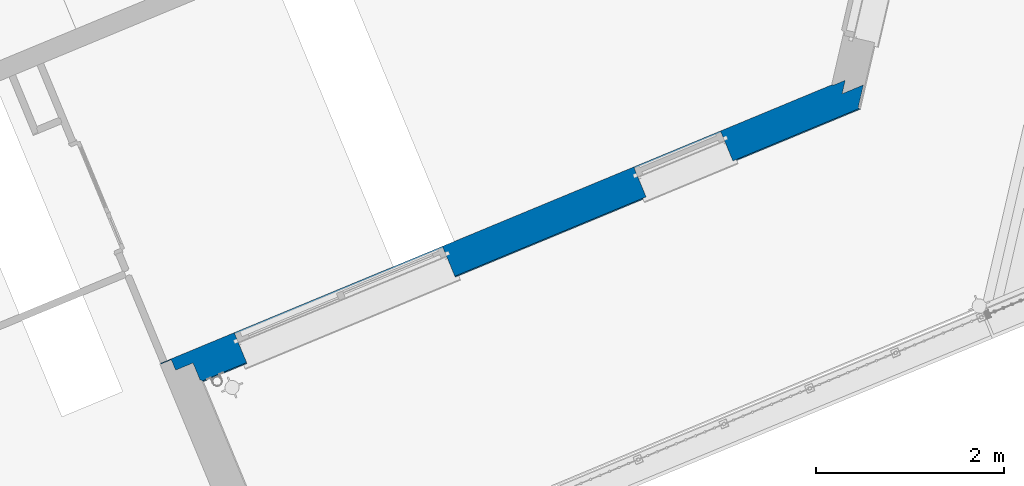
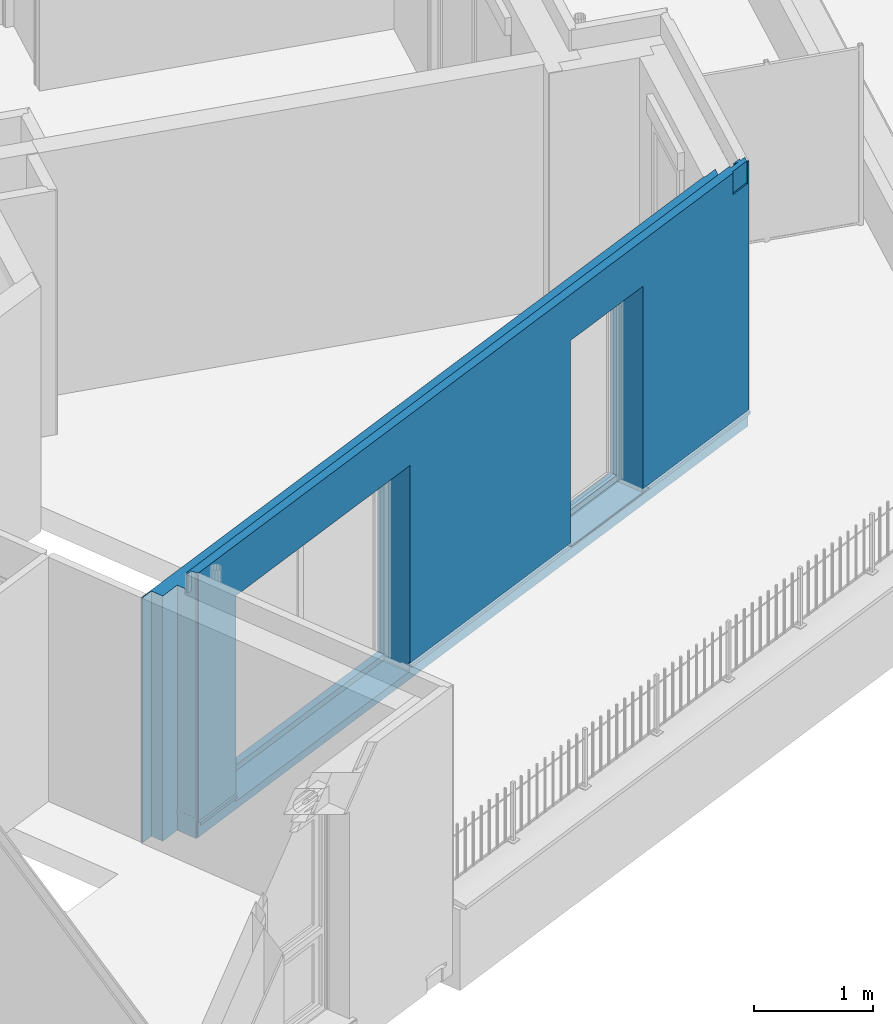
# One storey, part 12 of 119: 1 wall, 2 openings.
"""IFC2X3 building model written with IfcOpenShell, lengths in metres."""

from ifc_helpers import new_model, entity, si_unit, converted_unit, derived_unit, money_unit, direction, frame, origin_with_axes, place, context, subcontext, project, spatial, faceted_brep, material, material_list, type_object, element, save


model = new_model("IFC2X3")

# Units and contexts
model_context = context("Model", 3, precision=1e-05, world=origin_with_axes(), true_north=direction((0.0, 1.0)))
body_context = subcontext(model_context, "Body", "Model", "MODEL_VIEW")
ifc_project = project(units=[si_unit("LENGTHUNIT", "METRE"), si_unit("AREAUNIT", "SQUARE_METRE"), si_unit("VOLUMEUNIT", "CUBIC_METRE"), converted_unit("PLANEANGLEUNIT", "DEGREE", entity("IfcPlaneAngleMeasure", 0.0174532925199), si_unit("PLANEANGLEUNIT", "RADIAN"), dimensions=[0, 0, 0, 0, 0, 0, 0]), si_unit("SOLIDANGLEUNIT", "STERADIAN"), money_unit("EUR"), converted_unit("TIMEUNIT", "Year", entity("IfcTimeMeasure", 31556926.0), si_unit("TIMEUNIT", "SECOND"), dimensions=[0, 0, 1, 0, 0, 0, 0]), si_unit("MASSUNIT", "GRAM", prefix="KILO"), si_unit("THERMODYNAMICTEMPERATUREUNIT", "DEGREE_CELSIUS"), si_unit("LUMINOUSINTENSITYUNIT", "LUMEN"), si_unit("ENERGYUNIT", "JOULE", prefix="MEGA"), derived_unit("THERMALCONDUCTANCEUNIT", [(si_unit("POWERUNIT", "WATT"), 1), (si_unit("LENGTHUNIT", "METRE"), -1), (si_unit("THERMODYNAMICTEMPERATUREUNIT", "KELVIN"), -1)]), derived_unit("SPECIFICHEATCAPACITYUNIT", [(si_unit("ENERGYUNIT", "JOULE"), 1), (si_unit("MASSUNIT", "GRAM", prefix="KILO"), -1), (si_unit("THERMODYNAMICTEMPERATUREUNIT", "KELVIN"), -1)]), derived_unit("MASSDENSITYUNIT", [(si_unit("MASSUNIT", "GRAM", prefix="KILO"), 1), (si_unit("VOLUMEUNIT", "CUBIC_METRE"), -1)])], contexts=[model_context])

# Site, building, storey
site_placement = place(None, origin_with_axes())
site = spatial("IfcSite", under=ifc_project, at=site_placement, Name="Site", CompositionType="ELEMENT")
building_placement = place(site_placement, origin_with_axes())
building = spatial("IfcBuilding", under=site, at=building_placement, Name="Bâtiment", CompositionType="ELEMENT")
storey_placement = place(building_placement, origin_with_axes())
storey = spatial("IfcBuildingStorey", under=building, at=storey_placement, Name="Rez-de-chaussée", CompositionType="ELEMENT", Elevation=0.0)

# Wall, openings
ifc_material_1 = material(Name="Finition int - Plaque de plâtre")
ifc_material_2 = material(Name="Isolation - Polystyrène extrudé")
ifc_material_3 = material(Name="Bloc ELITHERM")
ifc_material_4 = material(Name="Isolation - Polystyrène expansé")
ifc_material_5 = material(Name="Mortier")
ifc_material_6 = material(Name="Béton cellulaire")
ifc_material_7 = material(Name="Etanchéité - Bitume")
ifc_material_8 = material(Name="Finition ext - Crépis")
ifc_material_9 = material(Name="Métal - Aluminium")
ifc_material_list = material_list([ifc_material_1, ifc_material_2, ifc_material_3, ifc_material_4, ifc_material_5, ifc_material_6, ifc_material_7, ifc_material_8, ifc_material_9])
wall_type = type_object("IfcWallType", Name="Mur ALKERN + planelle 21 TERRASSE RDC 356 x 2720", PredefinedType="USERDEFINED")
wall_placement = place(storey_placement, frame((-14.6068307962, -23.0338728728, 0.0), z_axis=(0.0, 0.0, 1.0), x_axis=(0.923701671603, 0.383112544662, 0.0)))
wall = element("IfcWall", 1, at=wall_placement, inside=storey, type_object=wall_type, material=ifc_material_list, Name="Mue bloc ALKERN isolé", ObjectType="SOLIDWALL", context=body_context, shape_type="Brep", body=[
    faceted_brep([(7.39179732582, 0.350000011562, 2.50955001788), (-0.350000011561, 0.350000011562, 2.50955001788), (-0.350000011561, 0.350000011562, 0.207793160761), (-0.350000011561, 0.350000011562, 0.176532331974), (-0.350000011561, 0.350000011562, 0.169414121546), (-0.350000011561, 0.350000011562, 0.160000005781), (-0.350000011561, 0.350000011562, 0.133633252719), (-0.350000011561, 0.350000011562, 0.0), (7.39179732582, 0.350000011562, 0.0), (7.39179732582, 0.350000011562, 0.133633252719), (7.39179732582, 0.350000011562, 0.160000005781), (7.39179732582, 0.350000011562, 0.169414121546), (7.39179732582, 0.350000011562, 0.176532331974), (7.39179732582, 0.350000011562, 0.207793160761), (0.499335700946, 0.350000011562, 2.2), (0.499335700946, 0.350000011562, 2.38), (2.89933570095, 0.350000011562, 2.38), (2.89933570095, 0.350000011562, 2.2), (2.89933570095, 0.350000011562, 0.15), (0.499335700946, 0.350000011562, 0.15), (5.10505784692, 0.350000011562, 2.25), (5.10505784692, 0.350000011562, 2.43), (6.10505784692, 0.350000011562, 2.43), (6.10505784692, 0.350000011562, 2.25), (6.10505784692, 0.350000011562, 0.2), (5.10505784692, 0.350000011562, 0.2), (7.39893608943, 0.359999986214, 2.50955001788), (-0.350000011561, 0.359999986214, 2.50955001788), (-0.350000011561, 0.359999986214, 0.207793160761), (-0.350000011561, 0.359999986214, 0.176532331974), (-0.350000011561, 0.359999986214, 0.169414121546), (-0.350000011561, 0.359999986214, 0.160000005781), (-0.350000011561, 0.359999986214, 0.133633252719), (-0.350000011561, 0.359999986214, 0.0), (7.39893608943, 0.359999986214, 0.0), (7.39893608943, 0.359999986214, 0.133633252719), (7.39893608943, 0.359999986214, 0.160000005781), (7.39893608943, 0.359999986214, 0.169414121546), (7.39893608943, 0.359999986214, 0.176532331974), (7.39893608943, 0.359999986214, 0.207793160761), (0.499335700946, 0.359999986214, 2.2), (0.499335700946, 0.359999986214, 2.38), (2.89933570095, 0.359999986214, 2.38), (2.89933570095, 0.359999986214, 2.2), (2.89933570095, 0.359999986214, 0.15), (0.499335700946, 0.359999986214, 0.15), (5.10505784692, 0.359999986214, 2.25), (5.10505784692, 0.359999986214, 2.43), (6.10505784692, 0.359999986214, 2.43), (6.10505784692, 0.359999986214, 2.25), (6.10505784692, 0.359999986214, 0.2), (5.10505784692, 0.359999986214, 0.2)], [[[0, 1, 2, 3, 4, 5, 6, 7, 8, 9, 10, 11, 12, 13], [14, 15, 16, 17, 18, 19], [20, 21, 22, 23, 24, 25]], [[1, 0, 26, 27]], [[2, 1, 27, 28]], [[2, 28, 29, 3]], [[4, 3, 29, 30]], [[5, 4, 30, 31]], [[32, 6, 5, 31]], [[6, 32, 33, 7]], [[33, 34, 8, 7]], [[9, 8, 34, 35]], [[9, 35, 36, 10]], [[10, 36, 37, 11]], [[37, 38, 12, 11]], [[38, 39, 13, 12]], [[13, 39, 26, 0]], [[40, 41, 15, 14]], [[41, 42, 16, 15]], [[42, 43, 17, 16]], [[44, 18, 17, 43]], [[45, 19, 18, 44]], [[19, 45, 40, 14]], [[21, 20, 46, 47]], [[22, 21, 47, 48]], [[23, 22, 48, 49]], [[23, 49, 50, 24]], [[24, 50, 51, 25]], [[46, 20, 25, 51]], [[39, 38, 37, 36, 35, 34, 33, 32, 31, 30, 29, 28, 27, 26], [41, 40, 45, 44, 43, 42], [47, 46, 51, 50, 49, 48]]]),
    faceted_brep([(6.10505784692, 0.248560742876, 0.2), (6.10505784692, 0.22999997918, 0.2), (6.10505784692, 0.22999997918, 2.25), (6.10505784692, 0.248560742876, 2.25), (6.10505784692, 0.22999997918, 0.14), (6.10505784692, 0.289560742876, 0.2), (6.10505784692, 0.289560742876, 0.14), (-0.229999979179, 0.22999997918, 0.207793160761), (-0.229999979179, 0.22999997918, 0.176532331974), (-0.229999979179, 0.22999997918, 0.169414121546), (-0.229999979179, 0.22999997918, 0.160000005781), (-0.229999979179, 0.22999997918, 0.133633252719), (-0.229999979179, 0.22999997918, 0.0), (7.45357196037, 0.22999997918, 0.0), (7.45357196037, 0.22999997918, 0.133633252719), (7.45357196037, 0.22999997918, 0.160000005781), (7.45357196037, 0.22999997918, 0.169414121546), (7.45357196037, 0.22999997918, 0.176532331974), (7.45357196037, 0.22999997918, 0.207793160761), (7.45357196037, 0.22999997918, 2.50955001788), (-0.229999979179, 0.22999997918, 2.50955001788), (2.89933570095, 0.22999997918, 2.38), (2.89933570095, 0.22999997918, 2.2), (2.89933570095, 0.22999997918, 0.15), (2.89933570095, 0.22999997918, 0.09), (0.499335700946, 0.22999997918, 0.09), (0.499335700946, 0.22999997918, 0.15), (0.499335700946, 0.22999997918, 2.2), (0.499335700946, 0.22999997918, 2.38), (5.10505784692, 0.22999997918, 0.14), (5.10505784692, 0.22999997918, 0.2), (5.10505784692, 0.22999997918, 2.25), (5.10505784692, 0.22999997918, 2.43), (6.10505784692, 0.22999997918, 2.43), (6.10505784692, 0.350000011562, 2.43), (6.10505784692, 0.350000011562, 2.25), (6.10505784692, 0.350000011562, 0.2), (5.10505784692, 0.289560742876, 0.2), (5.10505784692, 0.289560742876, 0.14), (-0.229999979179, 0.350000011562, 0.207793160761), (-0.229999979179, 0.350000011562, 0.176532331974), (-0.229999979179, 0.350000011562, 0.169414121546), (-0.229999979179, 0.350000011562, 0.160000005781), (-0.229999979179, 0.350000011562, 0.133633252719), (-0.229999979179, 0.350000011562, 0.0), (7.53923736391, 0.350000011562, 0.0), (7.53923736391, 0.350000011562, 0.133633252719), (7.53923736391, 0.350000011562, 0.160000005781), (7.53923736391, 0.350000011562, 0.169414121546), (7.53923736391, 0.350000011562, 0.176532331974), (7.53923736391, 0.350000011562, 0.207793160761), (7.53923736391, 0.350000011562, 2.50955001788), (-0.229999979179, 0.350000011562, 2.50955001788), (2.89933570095, 0.350000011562, 2.38), (2.89933570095, 0.350000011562, 2.2), (2.89933570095, 0.248560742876, 2.2), (2.89933570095, 0.248560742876, 0.15), (2.89933570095, 0.289560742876, 0.15), (2.89933570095, 0.289560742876, 0.09), (0.499335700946, 0.289560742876, 0.09), (0.499335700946, 0.289560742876, 0.15), (0.499335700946, 0.248560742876, 0.15), (0.499335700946, 0.248560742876, 2.2), (0.499335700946, 0.350000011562, 2.2), (0.499335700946, 0.350000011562, 2.38), (5.10505784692, 0.248560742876, 0.2), (5.10505784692, 0.248560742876, 2.25), (5.10505784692, 0.350000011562, 2.25), (5.10505784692, 0.350000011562, 2.43), (2.89933570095, 0.350000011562, 0.15), (0.499335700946, 0.350000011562, 0.15), (5.10505784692, 0.350000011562, 0.2)], [[[0, 1, 2, 3]], [[4, 1, 0, 5, 6]], [[7, 8, 9, 10, 11, 12, 13, 14, 15, 16, 17, 18, 19, 20], [21, 22, 23, 24, 25, 26, 27, 28], [29, 30, 31, 32, 33, 2, 1, 4]], [[34, 35, 3, 2, 33]], [[5, 0, 3, 35, 36]], [[5, 37, 38, 6]], [[29, 4, 6, 38]], [[39, 40, 8, 7]], [[8, 40, 41, 9]], [[9, 41, 42, 10]], [[11, 10, 42, 43]], [[43, 44, 12, 11]], [[44, 45, 13, 12]], [[14, 13, 45, 46]], [[14, 46, 47, 15]], [[15, 47, 48, 16]], [[48, 49, 17, 16]], [[49, 50, 18, 17]], [[18, 50, 51, 19]], [[20, 19, 51, 52]], [[20, 52, 39, 7]], [[22, 21, 53, 54, 55]], [[56, 23, 22, 55]], [[57, 58, 24, 23, 56]], [[25, 24, 58, 59]], [[59, 60, 61, 26, 25]], [[26, 61, 62, 27]], [[28, 27, 62, 63, 64]], [[28, 64, 53, 21]], [[65, 30, 29, 38, 37]], [[30, 65, 66, 31]], [[66, 67, 68, 32, 31]], [[32, 68, 34, 33]], [[48, 47, 46, 45, 44, 43, 42, 41, 40, 39, 52, 51, 50, 49], [69, 54, 53, 64, 63, 70], [36, 35, 34, 68, 67, 71]], [[37, 5, 36, 71]], [[54, 69, 57, 56, 55]], [[57, 60, 59, 58]], [[63, 62, 61, 60, 70]], [[65, 37, 71, 67, 66]], [[60, 57, 69, 70]]]),
    faceted_brep([(6.10505784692, 0.0310453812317, 0.1697277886), (6.10505784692, 0.0299999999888, 0.16941412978), (7.55652968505, 0.0299999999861, 0.169414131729), (7.55599151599, 0.0310453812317, 0.169727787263), (6.10505784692, 0.0300000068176, 0.160000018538), (6.10505784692, 0.0310453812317, 0.2), (6.10505784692, 0.229999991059, 0.2), (6.10505784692, 0.229999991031, 0.14), (6.10505784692, 0.03, 0.14), (7.55652968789, 0.0300000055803, 0.160000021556), (7.69930531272, 0.229999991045, 0.169414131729), (7.69802086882, 0.229999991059, 0.169727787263), (7.55599151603, 0.0310453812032, 0.176532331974), (7.55599151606, 0.0310453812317, 0.207793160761), (6.10505784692, 0.0310453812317, 0.20779315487), (6.10505784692, 0.03, 0.207793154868), (6.10505784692, 0.03, 2.25), (6.10505784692, 0.218560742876, 2.25), (6.10505784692, 0.229999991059, 2.25), (7.6993053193, 0.229999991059, 2.50955), (7.69930527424, 0.229999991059, 0.207793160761), (7.69802086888, 0.229999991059, 0.207793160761), (7.69802086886, 0.229999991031, 0.176532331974), (7.69930530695, 0.229999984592, 0.160000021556), (7.69930529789, 0.229999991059, 0.133633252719), (7.69930529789, 0.229999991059, 0.0), (-0.0299999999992, 0.229999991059, 0.0), (-0.0300000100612, 0.229999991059, 0.133633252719), (-0.0300000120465, 0.229999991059, 0.160000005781), (-0.0299999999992, 0.229999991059, 0.169414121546), (-0.0310453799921, 0.229999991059, 0.169727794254), (-0.0310453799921, 0.229999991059, 0.176532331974), (-0.0310453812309, 0.229999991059, 0.207793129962), (-0.0299999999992, 0.229999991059, 0.207793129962), (-0.0299999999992, 0.229999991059, 2.50955001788), (0.499335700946, 0.229999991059, 0.09), (2.89933570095, 0.229999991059, 0.09), (2.89933570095, 0.229999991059, 0.15), (2.89933570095, 0.229999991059, 2.2), (2.89933570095, 0.229999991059, 2.38), (0.499335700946, 0.229999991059, 2.38), (0.499335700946, 0.229999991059, 2.2), (0.499335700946, 0.229999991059, 0.15), (6.10505784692, 0.229999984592, 2.43), (5.10505784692, 0.229999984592, 2.43), (5.10505784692, 0.229999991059, 2.25), (5.10505784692, 0.229999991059, 0.2), (5.10505784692, 0.229999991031, 0.14), (5.10505784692, 0.03, 0.14), (5.10505784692, 0.03000000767, 0.160000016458), (2.89933570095, 0.0300000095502, 0.160000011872), (2.89933570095, 0.03, 0.15), (2.89933570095, 0.0300000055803, 0.09), (0.499335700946, 0.0300000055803, 0.09), (0.499335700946, 0.03, 0.15), (0.499335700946, 0.0300000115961, 0.160000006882), (-0.0300000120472, 0.0300000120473, 0.160000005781), (-0.0300000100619, 0.03, 0.133633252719), (-0.0299999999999, 0.03, 0.0), (7.55652967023, 0.03, 0.0), (7.55652967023, 0.03, 0.133633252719), (7.55652964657, 0.03, 0.207793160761), (7.55727592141, 0.0310453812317, 0.207793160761), (-0.0299999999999, 0.03, 2.50955001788), (-0.0299999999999, 0.03, 0.207793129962), (0.499335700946, 0.03, 0.207793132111), (0.499335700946, 0.03, 2.2), (2.89933570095, 0.03, 2.2), (2.89933570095, 0.03, 0.207793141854), (5.10505784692, 0.03, 0.207793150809), (5.10505784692, 0.03, 2.25), (7.55652969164, 0.03, 2.50955), (5.10505784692, 0.218560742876, 2.25), (6.10505784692, 0.218560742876, 2.43), (7.605073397, 0.0979999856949, 2.50955), (-0.0299999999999, 0.03, 0.169414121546), (-0.0310453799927, 0.0310453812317, 0.169727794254), (-0.0310453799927, 0.0310453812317, 0.176532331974), (-0.0310453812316, 0.0310453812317, 0.207793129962), (-0.0299999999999, 0.0310453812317, 0.207793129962), (-0.0299999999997, 0.0979999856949, 2.50955001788), (2.89933570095, 0.0299999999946, 0.169414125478), (2.89933570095, 0.0310453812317, 0.169727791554), (2.89933570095, 0.0310453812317, 0.207793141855), (2.89933570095, 0.218560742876, 2.2), (2.89933570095, 0.218560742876, 2.38), (0.499335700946, 0.218560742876, 2.38), (0.499335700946, 0.218560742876, 2.2), (0.499335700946, 0.0310453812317, 0.207793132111), (0.499335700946, 0.0310453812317, 0.169727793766), (0.499335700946, 0.029999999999, 0.169414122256), (5.10505784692, 0.218560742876, 2.43), (5.10505784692, 0.0310453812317, 0.2), (5.10505784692, 0.0310453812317, 0.20779315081), (5.10505784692, 0.0310453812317, 0.169727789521), (5.10505784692, 0.0299999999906, 0.169414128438)], [[[0, 1, 2, 3]], [[4, 1, 0, 5, 6, 7, 8]], [[1, 4, 9, 2]], [[10, 11, 3, 2]], [[5, 0, 3, 12, 13, 14]], [[6, 5, 14, 15, 16, 17, 18]], [[19, 20, 21, 22, 11, 10, 23, 24, 25, 26, 27, 28, 29, 30, 31, 32, 33, 34], [35, 36, 37, 38, 39, 40, 41, 42], [7, 6, 18, 43, 44, 45, 46, 47]], [[48, 8, 7, 47]], [[48, 49, 50, 51, 52, 53, 54, 55, 56, 57, 58, 59, 60, 9, 4, 8]], [[2, 9, 23, 10]], [[3, 11, 22, 12]], [[13, 12, 22, 21]], [[61, 15, 14, 13, 62]], [[63, 64, 65, 66, 67, 68, 69, 70, 16, 15, 61, 71]], [[17, 16, 70, 72]], [[17, 73, 43, 18]], [[20, 19, 74, 71, 61, 62]], [[13, 21, 20, 62]], [[9, 60, 24, 23]], [[24, 60, 59, 25]], [[58, 26, 25, 59]], [[27, 26, 58, 57]], [[57, 56, 28, 27]], [[75, 29, 28, 56]], [[29, 75, 76, 30]], [[77, 31, 30, 76]], [[32, 31, 77, 78]], [[79, 33, 32, 78]], [[79, 64, 63, 80, 34, 33]], [[34, 80, 74, 19]], [[35, 53, 52, 36]], [[36, 52, 51, 37]], [[51, 50, 81, 82, 83, 68, 67, 84, 38, 37]], [[38, 84, 85, 39]], [[40, 39, 85, 86]], [[87, 41, 40, 86]], [[42, 41, 87, 66, 65, 88, 89, 90, 55, 54]], [[35, 42, 54, 53]], [[43, 73, 91, 44]], [[45, 44, 91, 72]], [[92, 46, 45, 72, 70, 69, 93]], [[94, 95, 49, 48, 47, 46, 92]], [[49, 95, 81, 50]], [[90, 75, 56, 55]], [[65, 64, 79, 88]], [[87, 84, 67, 66]], [[68, 83, 93, 69]], [[80, 63, 71, 74]], [[72, 91, 73, 17]], [[89, 76, 75, 90]], [[78, 77, 76, 89, 88, 79]], [[95, 94, 82, 81]], [[94, 92, 93, 83, 82]], [[84, 87, 86, 85]]]),
    faceted_brep([(-0.0300078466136, 0.0980000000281, 2.51999999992), (-0.0300078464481, 0.0980000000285, 2.72), (7.40848672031, 0.0980000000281, 2.72), (7.40848672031, 0.0980000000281, 2.51999999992), (-0.0780000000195, 0.097896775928, 2.72), (-0.0780000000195, 0.097896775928, 2.51999999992), (-0.0780000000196, 0.0780000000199, 2.72), (7.39420915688, 0.0780000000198, 2.72), (7.39420915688, 0.0780000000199, 2.51999999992), (-0.0780000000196, 0.0780000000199, 2.51999999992)], [[[0, 1, 2, 3]], [[4, 1, 0, 5]], [[1, 4, 6, 7, 2]], [[8, 3, 2, 7]], [[5, 0, 3, 8, 9]], [[4, 5, 9, 6]], [[9, 8, 7, 6]]]),
    faceted_brep([(7.54609739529, 0.0980000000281, 2.72), (7.46127533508, 0.0980000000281, 2.72), (7.48929131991, 0.0780000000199, 2.72), (7.53181983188, 0.0780000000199, 2.72), (7.54609739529, 0.0980000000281, 2.51999999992), (7.46127533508, 0.0980000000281, 2.51999999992), (7.48929131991, 0.0780000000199, 2.51999999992), (7.53181983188, 0.0780000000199, 2.51999999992)], [[[0, 1, 2, 3]], [[4, 5, 1, 0]], [[5, 6, 2, 1]], [[3, 2, 6, 7]], [[7, 4, 0, 3]], [[7, 6, 5, 4]]]),
    faceted_brep([(7.55652969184, 0.03, 2.51999999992), (7.60507340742, 0.098, 2.51999999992), (-0.0299999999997, 0.098, 2.52), (-0.0299999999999, 0.03, 2.52), (7.60507340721, 0.098, 2.50955), (7.55652969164, 0.03, 2.50955), (-0.0299999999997, 0.098, 2.50955), (-0.0299999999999, 0.03, 2.50955)], [[[0, 1, 2, 3]], [[4, 1, 0, 5]], [[1, 4, 6, 2]], [[7, 3, 2, 6]], [[5, 0, 3, 7]], [[4, 5, 7, 6]]]),
    faceted_brep([(7.55652969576, 0.03, 2.72), (7.59079584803, 0.0780000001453, 2.72), (-0.0299999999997, 0.0780000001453, 2.72), (-0.0299999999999, 0.03, 2.72), (7.59079584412, 0.0780000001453, 2.51999999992), (7.55652969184, 0.03, 2.51999999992), (-0.0299999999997, 0.0780000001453, 2.51999999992), (-0.0299999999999, 0.03, 2.51999999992)], [[[0, 1, 2, 3]], [[4, 1, 0, 5]], [[1, 4, 6, 2]], [[7, 3, 2, 6]], [[5, 0, 3, 7]], [[4, 5, 7, 6]]]),
    faceted_brep([(6.10505784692, 0.0300000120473, 0.160000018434), (6.10505784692, 0.02, 0.160000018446), (7.56167759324, 0.02, 0.160000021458), (7.56881638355, 0.0300000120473, 0.160000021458), (6.10505784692, 0.02, 0.14), (6.10505784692, 0.0299999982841, 0.14), (5.10505784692, 0.02, 0.14), (5.10505784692, 0.02, 0.160000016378), (2.89933570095, 0.02, 0.160000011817), (2.89933570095, 0.02, 0.15), (2.89933570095, 0.02, 0.09), (0.499335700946, 0.02, 0.09), (0.499335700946, 0.02, 0.15), (0.499335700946, 0.02, 0.160000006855), (-0.0199999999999, 0.02, 0.160000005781), (-0.0199999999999, 0.02, 0.133633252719), (-0.0199999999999, 0.02, 0.01), (7.56167760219, 0.0200000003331, 0.01), (7.56167759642, 0.0200000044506, 0.133633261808), (7.56881638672, 0.0300000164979, 0.133633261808), (7.56881639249, 0.0300000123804, 0.01), (-0.0199999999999, 0.0299999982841, 0.01), (-0.0199999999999, 0.0300000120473, 0.133633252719), (-0.0199999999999, 0.0300000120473, 0.160000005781), (0.499335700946, 0.0300000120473, 0.160000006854), (0.499335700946, 0.0299999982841, 0.15), (0.499335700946, 0.0299999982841, 0.09), (2.89933570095, 0.0299999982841, 0.09), (2.89933570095, 0.0299999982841, 0.15), (2.89933570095, 0.0300000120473, 0.160000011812), (5.10505784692, 0.0300000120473, 0.160000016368), (5.10505784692, 0.0299999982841, 0.14)], [[[0, 1, 2, 3]], [[4, 1, 0, 5]], [[6, 7, 8, 9, 10, 11, 12, 13, 14, 15, 16, 17, 18, 2, 1, 4]], [[2, 18, 19, 3]], [[5, 0, 3, 19, 20, 21, 22, 23, 24, 25, 26, 27, 28, 29, 30, 31]], [[6, 4, 5, 31]], [[30, 7, 6, 31]], [[7, 30, 29, 8]], [[9, 8, 29, 28]], [[9, 28, 27, 10]], [[10, 27, 26, 11]], [[12, 11, 26, 25]], [[25, 24, 13, 12]], [[23, 14, 13, 24]], [[23, 22, 15, 14]], [[22, 21, 16, 15]], [[21, 20, 17, 16]], [[18, 17, 20, 19]]]),
    faceted_brep([(6.10505784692, 0.0150000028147, 0.2), (6.10505784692, 0.0150000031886, 0.176532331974), (7.56425150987, 0.0150000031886, 0.176532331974), (7.56425150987, 0.0150000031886, 2.72), (7.54582151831, 0.0150000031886, 2.72), (7.54582149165, 0.0149999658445, 2.51999999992), (7.54582149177, 0.014999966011, 2.50955), (7.54582149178, 0.0149999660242, 2.50872065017), (7.54582149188, 0.0149999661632, 2.5), (7.52739149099, 0.0149999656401, 2.5), (7.50313640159, 0.0149999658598, 2.5), (7.34923480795, 0.0149999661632, 2.5), (7.34923480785, 0.0149999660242, 2.50872065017), (7.34923480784, 0.014999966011, 2.50955), (7.34923480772, 0.0149999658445, 2.51999999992), (7.34923483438, 0.0150000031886, 2.72), (-0.0150000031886, 0.0150000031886, 2.72), (-0.0150000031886, 0.0149999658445, 2.51999999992), (-0.0150000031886, 0.014999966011, 2.50955), (-0.0150000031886, 0.0150000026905, 0.207793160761), (-0.0150000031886, 0.0150000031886, 0.176532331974), (0.499335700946, 0.0150000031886, 0.176532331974), (0.499335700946, 0.015000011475, 2.2), (2.89933570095, 0.015000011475, 2.2), (2.89933570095, 0.0150000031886, 0.176532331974), (5.10505784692, 0.0150000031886, 0.176532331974), (5.10505784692, 0.0150000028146, 0.2), (5.10505784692, 0.0149999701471, 2.25), (6.10505784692, 0.0149999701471, 2.25), (6.10505784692, 0.030000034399, 0.2), (6.10505784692, 0.0300000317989, 0.176532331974), (7.57495970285, 0.0300000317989, 0.176532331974), (7.57495967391, 0.0299999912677, 2.72), (7.55652968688, 0.0299999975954, 2.72), (7.55652968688, 0.0299999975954, 2.51999999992), (7.55652968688, 0.0299999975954, 2.50955), (7.55652968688, 0.0299999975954, 2.50872065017), (7.55652968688, 0.0299999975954, 2.5), (7.53809968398, 0.0299999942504, 2.5), (7.51384459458, 0.02999999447, 2.5), (7.35994300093, 0.0299999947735, 2.5), (7.35994300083, 0.0299999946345, 2.50872065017), (7.35994300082, 0.0299999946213, 2.50955), (7.35994300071, 0.0299999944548, 2.51999999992), (7.35994299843, 0.0299999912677, 2.72), (-0.0150000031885, 0.0299999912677, 2.72), (-0.0150000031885, 0.0299999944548, 2.51999999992), (-0.0150000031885, 0.0299999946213, 2.50955), (-0.0150000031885, 0.0300000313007, 0.207793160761), (-0.0150000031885, 0.0300000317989, 0.176532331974), (0.499335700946, 0.0300000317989, 0.176532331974), (0.499335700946, 0.0300000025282, 2.2), (2.89933570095, 0.0300000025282, 2.2), (2.89933570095, 0.0300000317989, 0.176532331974), (5.10505784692, 0.0300000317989, 0.176532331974), (5.10505784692, 0.030000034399, 0.2), (5.10505784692, 0.0300000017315, 2.25), (6.10505784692, 0.0300000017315, 2.25)], [[[0, 1, 2, 3, 4, 5, 6, 7, 8, 9, 10, 11, 12, 13, 14, 15, 16, 17, 18, 19, 20, 21, 22, 23, 24, 25, 26, 27, 28]], [[1, 0, 29, 30]], [[1, 30, 31, 2]], [[32, 3, 2, 31]], [[3, 32, 33, 4]], [[34, 5, 4, 33]], [[35, 6, 5, 34]], [[36, 7, 6, 35]], [[37, 8, 7, 36]], [[8, 37, 38, 9]], [[9, 38, 39, 10]], [[40, 11, 10, 39]], [[11, 40, 41, 12]], [[12, 41, 42, 13]], [[13, 42, 43, 14]], [[15, 14, 43, 44]], [[45, 16, 15, 44]], [[45, 46, 17, 16]], [[47, 18, 17, 46]], [[48, 19, 18, 47]], [[49, 20, 19, 48]], [[20, 49, 50, 21]], [[50, 51, 22, 21]], [[51, 52, 23, 22]], [[52, 53, 24, 23]], [[54, 25, 24, 53]], [[55, 26, 25, 54]], [[26, 55, 56, 27]], [[27, 56, 57, 28]], [[29, 0, 28, 57]], [[30, 29, 57, 56, 55, 54, 53, 52, 51, 50, 49, 48, 47, 46, 45, 44, 43, 42, 41, 40, 39, 38, 37, 36, 35, 34, 33, 32, 31]]]),
    faceted_brep([(0.499335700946, 0.0035607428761, 0.162931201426), (-0.00356074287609, 0.0035607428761, 0.162931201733), (-0.00356074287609, 0.0035607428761, 0.160000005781), (-0.00356074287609, 0.0035607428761, 0.133633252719), (0.499335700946, 0.0035607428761, 0.133633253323), (0.499335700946, 0.0035607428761, 0.15), (-0.0254132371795, 0.0254132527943, 0.169414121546), (0.499335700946, 0.0300000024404, 0.170774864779), (-0.029999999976, 0.0300000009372, 0.17077486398), (-0.00356074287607, 0.00839012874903, 0.162931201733), (-0.00356074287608, 0.00479482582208, 0.161852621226), (-0.00356074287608, 0.00479482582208, 0.160000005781), (-0.00356074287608, 0.00479482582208, 0.133633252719), (0.499335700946, 0.00479482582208, 0.133633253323), (0.499335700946, 0.00479482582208, 0.15), (0.499335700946, 0.03, 0.207793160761), (0.499335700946, 0.0300000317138, 0.176532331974), (0.499335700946, 0.00479482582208, 0.161852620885), (0.499335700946, 0.03, 0.169414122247), (0.499335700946, 0.0310453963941, 0.169727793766), (0.499335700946, 0.0310453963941, 0.207793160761), (-0.0254132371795, 0.03, 0.169414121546), (-0.0300000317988, 0.0300000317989, 0.176532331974), (-0.0299999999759, 0.0310453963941, 0.17077486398), (-0.0264705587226, 0.0310453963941, 0.16972779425), (-0.0299999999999, 0.03, 0.207793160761), (-0.0299999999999, 0.0310453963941, 0.207793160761), (-0.0300000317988, 0.0310453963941, 0.176532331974)], [[[0, 1, 2, 3, 4, 5]], [[6, 1, 0, 7, 8]], [[1, 9, 10, 11, 2]], [[11, 12, 3, 2]], [[13, 4, 3, 12]], [[14, 5, 4, 13]], [[15, 16, 7, 0, 5, 14, 17, 18, 19, 20]], [[21, 9, 1, 6]], [[16, 22, 8, 7]], [[21, 6, 8, 23, 24]], [[9, 21, 18, 17, 10]], [[12, 11, 10, 17, 14, 13]], [[15, 25, 22, 16]], [[18, 21, 24, 19]], [[26, 20, 19, 24, 23, 27]], [[20, 26, 25, 15]], [[27, 23, 8, 22]], [[25, 26, 27, 22]]]),
    faceted_brep([(6.10505784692, 0.0300000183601, 0.170774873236), (6.10505784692, 0.0035607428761, 0.162931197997), (7.57014033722, 0.0035607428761, 0.162931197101), (7.55652970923, 0.0300000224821, 0.170774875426), (6.10505784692, 0.0035607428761, 0.14), (6.10505784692, 0.0300000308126, 0.176532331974), (6.10505784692, 0.0300000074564, 0.2), (6.10505784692, 0.0310453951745, 0.2), (6.10505784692, 0.0310453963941, 0.169727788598), (6.10505784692, 0.03, 0.169414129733), (6.10505784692, 0.00479482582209, 0.161852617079), (6.10505784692, 0.00479482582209, 0.14), (5.10505784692, 0.0035607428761, 0.14), (5.10505784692, 0.0035607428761, 0.162931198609), (2.89933570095, 0.0035607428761, 0.162931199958), (2.89933570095, 0.0035607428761, 0.15), (2.89933570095, 0.0035607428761, 0.133633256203), (7.57014033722, 0.0035607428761, 0.133633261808), (7.56161255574, 0.0310453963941, 0.169727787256), (7.55727597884, 0.0310453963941, 0.170774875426), (7.57358791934, 0.00839011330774, 0.162931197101), (7.562165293, 0.03, 0.169414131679), (7.55652966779, 0.0300000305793, 0.176532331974), (7.55652964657, 0.03, 0.207793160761), (6.10505784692, 0.03, 0.207793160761), (6.10505784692, 0.0310453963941, 0.207793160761), (7.55727593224, 0.0310453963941, 0.207793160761), (7.55727593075, 0.0310453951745, 0.176532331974), (7.57102132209, 0.00479482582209, 0.161852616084), (7.57102132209, 0.00479482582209, 0.133633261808), (2.89933570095, 0.00479482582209, 0.133633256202), (2.89933570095, 0.00479482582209, 0.15), (2.89933570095, 0.00479482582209, 0.161852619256), (5.10505784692, 0.00479482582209, 0.161852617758), (5.10505784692, 0.00479482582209, 0.14), (5.10505784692, 0.0300000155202, 0.170774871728), (5.10505784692, 0.03, 0.169414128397), (5.10505784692, 0.0310453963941, 0.16972778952), (5.10505784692, 0.0310453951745, 0.2), (5.10505784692, 0.0300000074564, 0.2), (5.10505784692, 0.0300000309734, 0.176532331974), (2.89933570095, 0.0300000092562, 0.1707748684), (2.89933570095, 0.030000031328, 0.176532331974), (2.89933570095, 0.03, 0.207793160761), (2.89933570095, 0.0310453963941, 0.207793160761), (2.89933570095, 0.0310453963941, 0.169727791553), (2.89933570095, 0.03, 0.169414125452), (5.10505784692, 0.0310453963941, 0.207793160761), (5.10505784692, 0.03, 0.207793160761)], [[[0, 1, 2, 3]], [[4, 1, 0, 5, 6, 7, 8, 9, 10, 11]], [[12, 13, 14, 15, 16, 17, 2, 1, 4]], [[18, 19, 3, 2, 20, 21]], [[5, 0, 3, 22]], [[6, 5, 22, 23, 24]], [[7, 6, 24, 25]], [[8, 7, 25, 26, 27, 19, 18]], [[9, 8, 18, 21]], [[10, 9, 21, 20, 28]], [[11, 10, 28, 29, 30, 31, 32, 33, 34]], [[12, 4, 11, 34]], [[35, 13, 12, 34, 33, 36, 37, 38, 39, 40]], [[13, 35, 41, 14]], [[42, 43, 44, 45, 46, 32, 31, 15, 14, 41]], [[31, 30, 16, 15]], [[29, 17, 16, 30]], [[20, 2, 17, 29, 28]], [[27, 22, 3, 19]], [[27, 26, 23, 22]], [[24, 23, 26, 25]], [[36, 33, 32, 46]], [[37, 36, 46, 45]], [[38, 37, 45, 44, 47]], [[39, 38, 47, 48]], [[40, 39, 48, 43, 42]], [[35, 40, 42, 41]], [[47, 44, 43, 48]]]),
])
opening_1_placement = place(wall_placement, frame((1.69933570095, 0.0, 0.15), z_axis=(0.0, 0.0, 1.0), x_axis=(1.0, 0.0, 0.0)))
element("IfcOpeningElement", 2, at=opening_1_placement, cuts=wall, Name="MEN 27", context=body_context, shape_type="Brep", body=[
    faceted_brep([(-1.2, 0.849999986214, 0.0), (1.2, 0.849999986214, 0.0), (1.2, 0.248560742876, 0.0), (-1.2, 0.248560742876, 0.0), (-1.2, 0.849999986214, 2.05), (1.2, 0.849999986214, 2.05), (1.2, 0.248560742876, 2.05), (-1.2, 0.248560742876, 2.05)], [[[0, 1, 2, 3]], [[0, 4, 5, 1]], [[1, 5, 6, 2]], [[3, 2, 6, 7]], [[4, 0, 3, 7]], [[5, 4, 7, 6]]]),
    faceted_brep([(-1.2, -0.352878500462, 0.0), (-1.2, -0.352878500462, 2.05), (-1.2, 0.248560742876, 2.05), (-1.2, 0.248560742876, 0.0), (1.2, -0.352878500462, 0.0), (1.2, -0.352878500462, 2.05), (1.2, 0.248560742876, 2.05), (1.2, 0.248560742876, 0.0)], [[[0, 1, 2, 3]], [[0, 4, 5, 1]], [[1, 5, 6, 2]], [[3, 2, 6, 7]], [[4, 0, 3, 7]], [[5, 4, 7, 6]]]),
    faceted_brep([(-1.2, -0.352878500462, 0.0), (-1.2, -0.352878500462, 2.05), (-1.2, 0.248560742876, 2.05), (-1.2, 0.248560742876, 0.0), (1.2, -0.352878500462, 0.0), (1.2, -0.352878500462, 2.05), (1.2, 0.248560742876, 2.05), (1.2, 0.248560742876, 0.0)], [[[0, 1, 2, 3]], [[0, 4, 5, 1]], [[1, 5, 6, 2]], [[3, 2, 6, 7]], [[4, 0, 3, 7]], [[5, 4, 7, 6]]]),
    faceted_brep([(-1.2, 0.819999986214, 2.05), (1.2, 0.819999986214, 2.05), (1.2, 0.218560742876, 2.05), (-1.2, 0.218560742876, 2.05), (-1.2, 0.819999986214, 2.23), (1.2, 0.819999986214, 2.23), (1.2, 0.218560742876, 2.23), (-1.2, 0.218560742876, 2.23)], [[[0, 1, 2, 3]], [[0, 4, 5, 1]], [[1, 5, 6, 2]], [[3, 2, 6, 7]], [[4, 0, 3, 7]], [[5, 4, 7, 6]]]),
    faceted_brep([(-1.2, -0.311878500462, 0.0), (1.2, -0.311878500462, 0.0), (1.2, 0.289560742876, 0.0), (-1.2, 0.289560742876, 0.0), (-1.2, -0.311878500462, -0.06), (1.2, -0.311878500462, -0.06), (1.2, 0.289560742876, -0.06), (-1.2, 0.289560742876, -0.06)], [[[0, 1, 2, 3]], [[0, 4, 5, 1]], [[1, 5, 6, 2]], [[3, 2, 6, 7]], [[4, 0, 3, 7]], [[5, 4, 7, 6]]]),
])
opening_2_placement = place(wall_placement, frame((5.60505784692, 0.0, 0.2), z_axis=(0.0, 0.0, 1.0), x_axis=(1.0, 0.0, 0.0)))
element("IfcOpeningElement", 3, at=opening_2_placement, cuts=wall, Name="MEN 28", context=body_context, shape_type="Brep", body=[
    faceted_brep([(-0.5, 0.849999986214, 0.0), (0.5, 0.849999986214, 0.0), (0.5, 0.248560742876, 0.0), (-0.5, 0.248560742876, 0.0), (-0.5, 0.849999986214, 2.05), (0.5, 0.849999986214, 2.05), (0.5, 0.248560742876, 2.05), (-0.5, 0.248560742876, 2.05)], [[[0, 1, 2, 3]], [[0, 4, 5, 1]], [[1, 5, 6, 2]], [[3, 2, 6, 7]], [[4, 0, 3, 7]], [[5, 4, 7, 6]]]),
    faceted_brep([(-0.5, -0.352878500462, 0.0), (-0.5, -0.352878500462, 2.05), (-0.5, 0.248560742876, 2.05), (-0.5, 0.248560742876, 0.0), (0.5, -0.352878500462, 0.0), (0.5, -0.352878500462, 2.05), (0.5, 0.248560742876, 2.05), (0.5, 0.248560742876, 0.0)], [[[0, 1, 2, 3]], [[0, 4, 5, 1]], [[1, 5, 6, 2]], [[3, 2, 6, 7]], [[4, 0, 3, 7]], [[5, 4, 7, 6]]]),
    faceted_brep([(-0.5, -0.352878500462, 0.0), (-0.5, -0.352878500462, 2.05), (-0.5, 0.248560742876, 2.05), (-0.5, 0.248560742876, 0.0), (0.5, -0.352878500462, 0.0), (0.5, -0.352878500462, 2.05), (0.5, 0.248560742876, 2.05), (0.5, 0.248560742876, 0.0)], [[[0, 1, 2, 3]], [[0, 4, 5, 1]], [[1, 5, 6, 2]], [[3, 2, 6, 7]], [[4, 0, 3, 7]], [[5, 4, 7, 6]]]),
    faceted_brep([(-0.5, 0.819999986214, 2.05), (0.5, 0.819999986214, 2.05), (0.5, 0.218560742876, 2.05), (-0.5, 0.218560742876, 2.05), (-0.5, 0.819999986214, 2.23), (0.5, 0.819999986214, 2.23), (0.5, 0.218560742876, 2.23), (-0.5, 0.218560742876, 2.23)], [[[0, 1, 2, 3]], [[0, 4, 5, 1]], [[1, 5, 6, 2]], [[3, 2, 6, 7]], [[4, 0, 3, 7]], [[5, 4, 7, 6]]]),
    faceted_brep([(-0.5, -0.311878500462, 0.0), (0.5, -0.311878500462, 0.0), (0.5, 0.289560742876, 0.0), (-0.5, 0.289560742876, 0.0), (-0.5, -0.311878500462, -0.06), (0.5, -0.311878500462, -0.06), (0.5, 0.289560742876, -0.06), (-0.5, 0.289560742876, -0.06)], [[[0, 1, 2, 3]], [[0, 4, 5, 1]], [[1, 5, 6, 2]], [[3, 2, 6, 7]], [[4, 0, 3, 7]], [[5, 4, 7, 6]]]),
])

save(model, "model.ifc")
